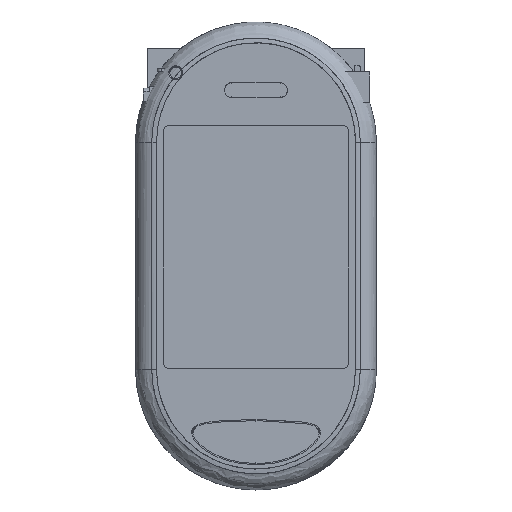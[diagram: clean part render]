
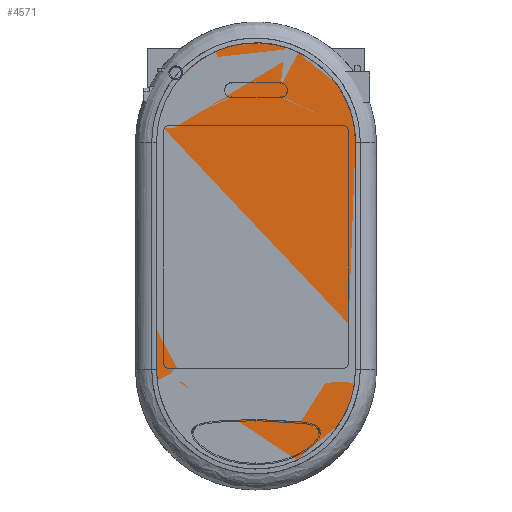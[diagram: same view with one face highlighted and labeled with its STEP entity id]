
A CAD part, top view. The second image highlights one B-rep face of the part: STEP entity #4571.
In plain terms, the highlighted planar face has unit normal (0, 0, 1).
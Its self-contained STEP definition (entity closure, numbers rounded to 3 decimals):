
#4336=CARTESIAN_POINT('',(-24.809,69.,7.1));
#4337=CARTESIAN_POINT('',(-24.809,69.847,7.1));
#4338=CARTESIAN_POINT('',(-24.725,71.474,7.1));
#4339=CARTESIAN_POINT('',(-24.236,74.733,7.1));
#4340=CARTESIAN_POINT('',(-23.029,78.65,7.1));
#4341=CARTESIAN_POINT('',(-20.709,82.947,7.1));
#4342=CARTESIAN_POINT('',(-17.6,86.71,7.1));
#4343=CARTESIAN_POINT('',(-13.821,89.793,7.1));
#4344=CARTESIAN_POINT('',(-9.517,92.082,7.1));
#4345=CARTESIAN_POINT('',(-4.852,93.492,7.1));
#4346=CARTESIAN_POINT('',(-1.604,93.81,7.1));
#4347=CARTESIAN_POINT('',(1.646,93.808,7.1));
#4348=CARTESIAN_POINT('',(4.901,93.483,7.1));
#4349=CARTESIAN_POINT('',(9.574,92.059,7.1));
#4350=CARTESIAN_POINT('',(13.881,89.754,7.1));
#4351=CARTESIAN_POINT('',(17.656,86.655,7.1));
#4352=CARTESIAN_POINT('',(20.755,82.879,7.1));
#4353=CARTESIAN_POINT('',(23.06,78.573,7.1));
#4354=CARTESIAN_POINT('',(24.246,74.678,7.1));
#4355=CARTESIAN_POINT('',(24.726,71.455,7.1));
#4356=CARTESIAN_POINT('',(24.809,69.844,7.1));
#4357=CARTESIAN_POINT('',(24.809,69.,7.1));
#4359=DIRECTION('',(0.,-1.,0.));
#4360=VECTOR('',#4359,56.7);
#4361=CARTESIAN_POINT('',(24.809,69.,7.1));
#4362=LINE('',#4361,#4360);
#4363=CARTESIAN_POINT('',(24.809,12.3,7.1));
#4364=CARTESIAN_POINT('',(24.809,11.456,7.1));
#4365=CARTESIAN_POINT('',(24.726,9.845,7.1));
#4366=CARTESIAN_POINT('',(24.247,6.622,7.1));
#4367=CARTESIAN_POINT('',(23.06,2.727,7.1));
#4368=CARTESIAN_POINT('',(20.755,-1.579,7.1));
#4369=CARTESIAN_POINT('',(17.656,-5.355,7.1));
#4370=CARTESIAN_POINT('',(13.881,-8.454,7.1));
#4371=CARTESIAN_POINT('',(9.574,-10.759,7.1));
#4372=CARTESIAN_POINT('',(4.901,-12.183,7.1));
#4373=CARTESIAN_POINT('',(1.646,-12.508,7.1));
#4374=CARTESIAN_POINT('',(-1.604,-12.51,
7.1));
#4375=CARTESIAN_POINT('',(-4.852,-12.192,
7.1));
#4376=CARTESIAN_POINT('',(-9.517,-10.782,
7.1));
#4377=CARTESIAN_POINT('',(-13.821,-8.493,
7.1));
#4378=CARTESIAN_POINT('',(-17.6,-5.41,
7.1));
#4379=CARTESIAN_POINT('',(-20.709,-1.647,
7.1));
#4380=CARTESIAN_POINT('',(-23.029,2.65,7.1));
#4381=CARTESIAN_POINT('',(-24.236,6.567,7.1));
#4382=CARTESIAN_POINT('',(-24.725,9.826,7.1));
#4383=CARTESIAN_POINT('',(-24.809,11.453,7.1));
#4384=CARTESIAN_POINT('',(-24.809,12.3,7.1));
#4386=DIRECTION('',(0.,1.,0.));
#4387=VECTOR('',#4386,56.7);
#4388=CARTESIAN_POINT('',(-24.809,12.3,7.1));
#4389=LINE('',#4388,#4387);
#4536=VERTEX_POINT('',#4336);
#4537=VERTEX_POINT('',#4357);
#4538=CARTESIAN_POINT('',(24.809,12.3,7.1));
#4539=VERTEX_POINT('',#4538);
#4540=VERTEX_POINT('',#4384);
#4556=CARTESIAN_POINT('',(-1.904,40.65,7.1));
#4557=DIRECTION('',(0.,0.,1.));
#4558=DIRECTION('',(1.,0.,0.));
#4559=AXIS2_PLACEMENT_3D('',#4556,#4557,#4558);
#4560=PLANE('',#4559);
#4562=ORIENTED_EDGE('',*,*,#4561,.T.);
#4564=ORIENTED_EDGE('',*,*,#4563,.T.);
#4566=ORIENTED_EDGE('',*,*,#4565,.T.);
#4568=ORIENTED_EDGE('',*,*,#4567,.T.);
#4569=EDGE_LOOP('',(#4562,#4564,#4566,#4568));
#4570=FACE_OUTER_BOUND('',#4569,.F.);
#4571=ADVANCED_FACE('',(#4570),#4560,.T.);
#4358=B_SPLINE_CURVE_WITH_KNOTS('',3,(#4336,#4337,#4338,#4339,#4340,#4341,#4342,
#4343,#4344,#4345,#4346,#4347,#4348,#4349,#4350,#4351,#4352,#4353,#4354,#4355,
#4356,#4357),.UNSPECIFIED.,.F.,.F.,(4,1,1,1,1,1,1,1,1,1,1,1,1,1,1,1,1,1,1,4),(
0.,0.031,0.063,0.125,0.188,0.25,0.313,0.375,
0.437,0.5,0.5,0.563,0.625,0.688,0.75,
0.813,0.875,0.938,0.969,1.),.UNSPECIFIED.);
#4385=B_SPLINE_CURVE_WITH_KNOTS('',3,(#4363,#4364,#4365,#4366,#4367,#4368,#4369,
#4370,#4371,#4372,#4373,#4374,#4375,#4376,#4377,#4378,#4379,#4380,#4381,#4382,
#4383,#4384),.UNSPECIFIED.,.F.,.F.,(4,1,1,1,1,1,1,1,1,1,1,1,1,1,1,1,1,1,1,4),(
0.,0.031,0.062,0.125,0.187,0.25,0.312,0.375,
0.437,0.5,0.5,0.563,0.625,0.687,0.75,
0.812,0.875,0.937,0.969,1.),.UNSPECIFIED.);
#4561=EDGE_CURVE('',#4536,#4537,#4358,.T.);
#4563=EDGE_CURVE('',#4537,#4539,#4362,.T.);
#4565=EDGE_CURVE('',#4539,#4540,#4385,.T.);
#4567=EDGE_CURVE('',#4540,#4536,#4389,.T.);
